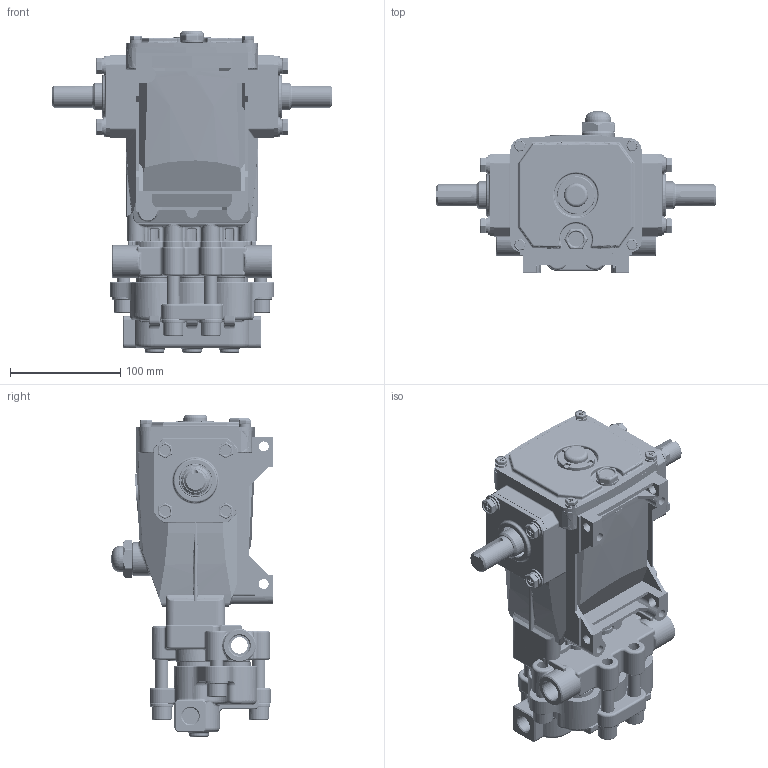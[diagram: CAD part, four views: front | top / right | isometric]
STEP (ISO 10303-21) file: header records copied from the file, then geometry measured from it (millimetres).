
FILE_DESCRIPTION (( 'STEP AP214' ), '1' );
FILE_NAME ('5CP 6221.STEP', '2012-11-16T13:29:46', ( '' ), ( '' ), 'SwSTEP 2.0', 'SolidWorks 2012', '' );
FILE_SCHEMA (( 'AUTOMOTIVE_DESIGN' ));
Length unit declared in the file: millimetre
Products named in the file (1): 5CP 6221
Bounding box: 254 x 146.2 x 292.35 mm (x, y, z)
Volume: 1535091.2 mm3; surface area: 463091.4 mm2
Topology: 1 solids, 31 shells, 5112 faces, 12952 edges, 8080 vertices
Faces by surface type: plane 1816, cylinder 1561, bspline 668, torus 581, cone 447, sphere 39
Entity records: 233722 total; most frequent: CARTESIAN_POINT 72407, ORIENTED_EDGE 25696, DIRECTION 23593, EDGE_CURVE 12848, AXIS2_PLACEMENT_3D 8665, VERTEX_POINT 8068, VECTOR 6263, LINE 6263
